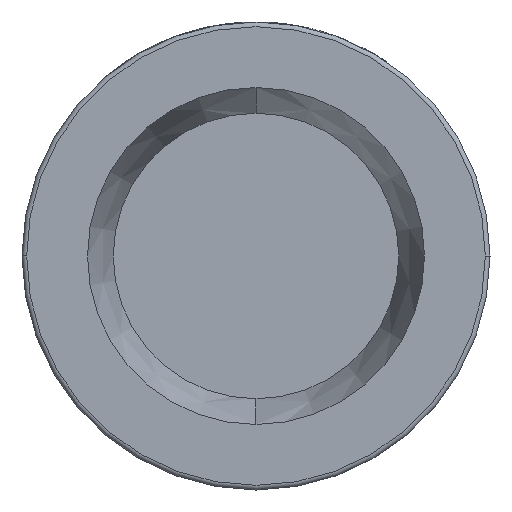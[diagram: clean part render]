
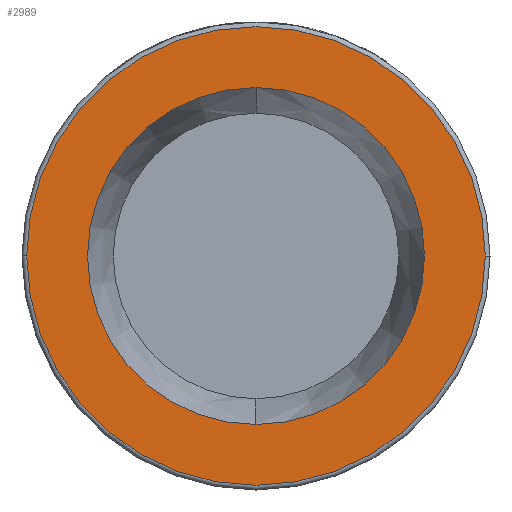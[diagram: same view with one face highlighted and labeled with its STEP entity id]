
A CAD part, front view. The second image highlights one B-rep face of the part: STEP entity #2989.
In plain terms, the highlighted planar face has unit normal (0, -1, 0).
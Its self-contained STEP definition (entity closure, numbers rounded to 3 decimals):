
#229 = DIRECTION ( 'NONE',  ( 1., 0., 0. ) ) ;
#331 = CIRCLE ( 'NONE', #4107, 49. ) ;
#391 = EDGE_CURVE ( 'NONE', #3771, #628, #1818, .T. ) ;
#499 = FACE_BOUND ( 'NONE', #548, .T. ) ;
#548 = EDGE_LOOP ( 'NONE', ( #1808, #771 ) ) ;
#628 = VERTEX_POINT ( 'NONE', #2984 ) ;
#771 = ORIENTED_EDGE ( 'NONE', *, *, #2724, .F. ) ;
#971 = EDGE_CURVE ( 'NONE', #1122, #3990, #331, .T. ) ;
#1122 = VERTEX_POINT ( 'NONE', #3188 ) ;
#1189 = FACE_OUTER_BOUND ( 'NONE', #3939, .T. ) ;
#1513 = DIRECTION ( 'NONE',  ( 1., 0., 0. ) ) ;
#1603 = CARTESIAN_POINT ( 'NONE',  ( 50., -32., 0. ) ) ;
#1808 = ORIENTED_EDGE ( 'NONE', *, *, #391, .F. ) ;
#1818 = CIRCLE ( 'NONE', #2555, 36. ) ;
#1849 = CARTESIAN_POINT ( 'NONE',  ( 0., -32., 0. ) ) ;
#1863 = ORIENTED_EDGE ( 'NONE', *, *, #971, .T. ) ;
#1891 = PLANE ( 'NONE',  #1912 ) ;
#1896 = DIRECTION ( 'NONE',  ( 0., -1., 0. ) ) ;
#1912 = AXIS2_PLACEMENT_3D ( 'NONE', #1603, #3282, #1513 ) ;
#2077 = DIRECTION ( 'NONE',  ( 0., -1., 0. ) ) ;
#2555 = AXIS2_PLACEMENT_3D ( 'NONE', #1849, #1896, #3311 ) ;
#2688 = CARTESIAN_POINT ( 'NONE',  ( 0., -32., 0. ) ) ;
#2724 = EDGE_CURVE ( 'NONE', #628, #3771, #3167, .T. ) ;
#2772 = DIRECTION ( 'NONE',  ( 0., 0., -1. ) ) ;
#2805 = EDGE_CURVE ( 'NONE', #3990, #1122, #4273, .T. ) ;
#2854 = DIRECTION ( 'NONE',  ( 1., 0., 0. ) ) ;
#2984 = CARTESIAN_POINT ( 'NONE',  ( 0., -32., 36. ) ) ;
#2989 = ADVANCED_FACE ( 'NONE', ( #499, #1189 ), #1891, .T. ) ;
#3045 = CARTESIAN_POINT ( 'NONE',  ( 0., -32., 0. ) ) ;
#3167 = CIRCLE ( 'NONE', #4565, 36. ) ;
#3188 = CARTESIAN_POINT ( 'NONE',  ( 49., -32., 0. ) ) ;
#3282 = DIRECTION ( 'NONE',  ( 0., -1., 0. ) ) ;
#3295 = ORIENTED_EDGE ( 'NONE', *, *, #2805, .T. ) ;
#3311 = DIRECTION ( 'NONE',  ( 0., 0., -1. ) ) ;
#3454 = AXIS2_PLACEMENT_3D ( 'NONE', #3045, #4110, #229 ) ;
#3771 = VERTEX_POINT ( 'NONE', #4473 ) ;
#3830 = DIRECTION ( 'NONE',  ( 0., -1., 0. ) ) ;
#3939 = EDGE_LOOP ( 'NONE', ( #1863, #3295 ) ) ;
#3990 = VERTEX_POINT ( 'NONE', #4445 ) ;
#4107 = AXIS2_PLACEMENT_3D ( 'NONE', #4272, #2077, #2854 ) ;
#4110 = DIRECTION ( 'NONE',  ( 0., -1., 0. ) ) ;
#4272 = CARTESIAN_POINT ( 'NONE',  ( 0., -32., 0. ) ) ;
#4273 = CIRCLE ( 'NONE', #3454, 49. ) ;
#4445 = CARTESIAN_POINT ( 'NONE',  ( -49., -32., 0. ) ) ;
#4473 = CARTESIAN_POINT ( 'NONE',  ( 0., -32., -36. ) ) ;
#4565 = AXIS2_PLACEMENT_3D ( 'NONE', #2688, #3830, #2772 ) ;
